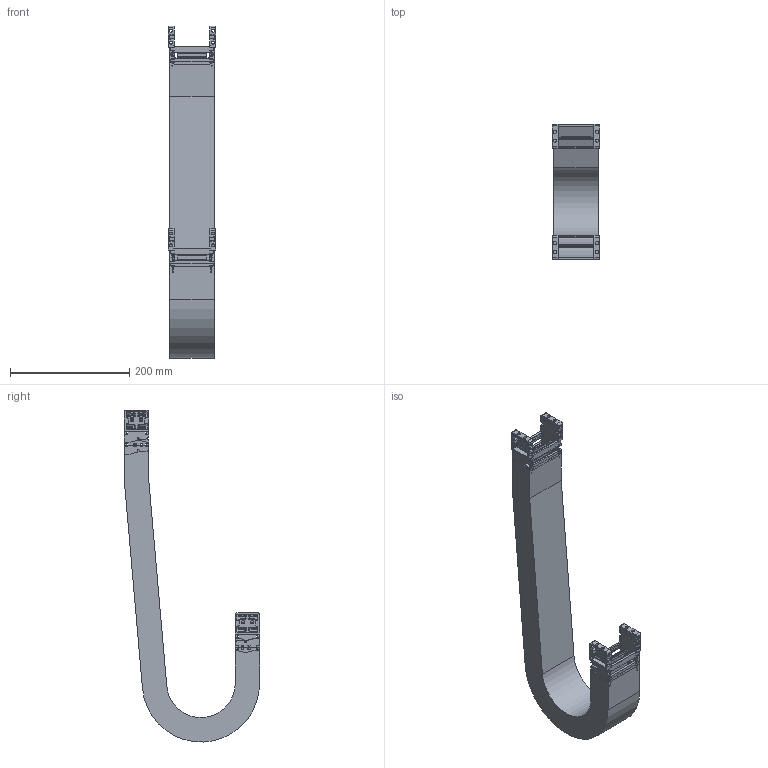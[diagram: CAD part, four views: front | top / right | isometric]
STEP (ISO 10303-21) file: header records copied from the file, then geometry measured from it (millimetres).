
FILE_DESCRIPTION((''),'2;1');
FILE_NAME('KST-30060-075_ASM','2017-12-06T',('KUNI004K'),(''),'PRO/ENGINEER BY PARAMETRIC TECHNOLOGY CORPORATION, 2015200','PRO/ENGINEER BY PARAMETRIC TECHNOLOGY CORPORATION, 2015200','');
FILE_SCHEMA(('AUTOMOTIVE_DESIGN { 1 0 10303 214 1 1 1 1 }'));
Length unit declared in the file: millimetre
Products named in the file (13): 30FBR; 30FBL; 25060C; 30FB_W060_ASM; 30075R; 30075L; 25060H; KST30060-075_1_ASM; KST30060_R75_BODY; 30MBR; 30MBL; 30MB_W060_ASM; KST-30060-075_ASM
Assembly tree (19 placements, depth 3):
  KST-30060-075_ASM
    30FB_W060_ASM
      30FBR
      30FBL
      25060C  x2
    KST30060-075_1_ASM  x2
      30075R
      30075L
      25060C
      25060H
    KST30060_R75_BODY
    30MB_W060_ASM
      30MBR
      30MBL
      25060C  x2
Bounding box: 80 x 227 x 557.21 mm (x, y, z)
Volume: 973048.6 mm3; surface area: 450857.3 mm2
Topology: 21 solids, 21 shells, 2628 faces, 7238 edges, 4672 vertices
Faces by surface type: plane 1354, cylinder 930, bspline 216, torus 64, sphere 64
Entity records: 70888 total; most frequent: CARTESIAN_POINT 14936, ORIENTED_EDGE 7576, DIRECTION 6744, PRESENTATION_STYLE_ASSIGNMENT 5140, STYLED_ITEM 5140, CURVE_STYLE 3788, EDGE_CURVE 3788, VERTEX_POINT 2472
